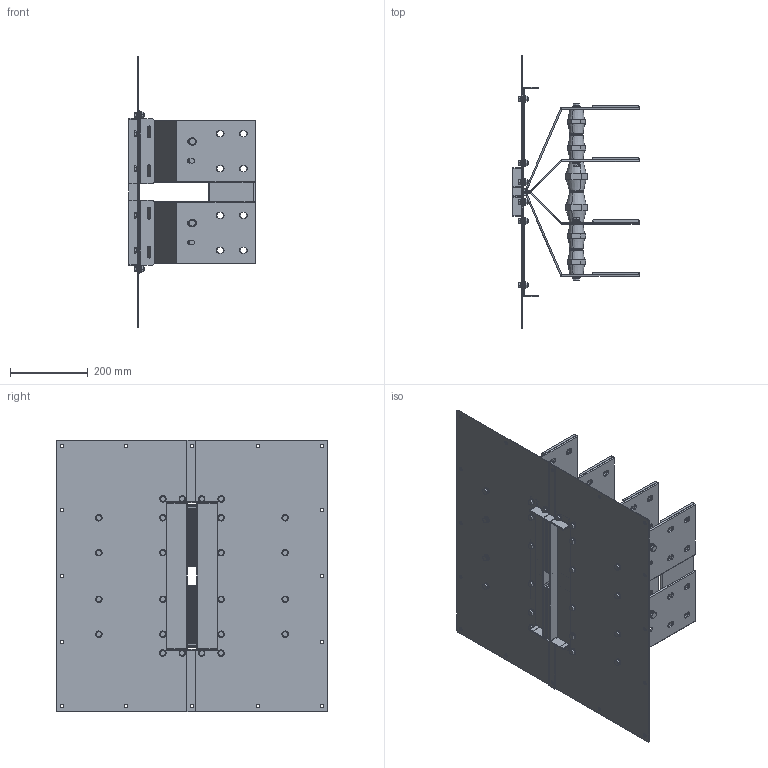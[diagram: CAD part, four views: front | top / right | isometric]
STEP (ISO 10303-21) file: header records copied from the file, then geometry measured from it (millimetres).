
FILE_DESCRIPTION(('CATIA V5 STEP','CAx-IF Rec.Pracs.--- Model Styling and Organization---1.5--- 2016-08-15','CAx-IF Rec.Pracs.---Supplemental Geometry---1.0---2011-11-01','CAx-IF Rec.Pracs.--- Composite Materials ---1.1---2010-07-15'),'2;1');
FILE_NAME('K:\COSCN 2011\32372311_RiduzioneSezioniBarre\03_Studio\__Modelli semplificati\XCP_UB semplificati per studi\XCP-HP_UB_4C_Pe_CRT_Assieme\Cu\XCP-HP_UB_4C_Pe_D_Assieme - 3200A Cu_CRT\XCP-HP_UB_4C_Pe_D_Assieme - 3200A Cu_CRT.stp','2025-05-12T12:02:25+00:00',('Utente Bticino'),('Bticino S.p.A.'),'CATIA Version 5-6 Release 2020 SP5','CATIA V5 STEP AP214 v2','none');
FILE_SCHEMA(('AUTOMOTIVE_DESIGN { 1 0 10303 214 1 1 1 1 }'));
Length unit declared in the file: millimetre
Products named in the file (30): XCP-HP_UB_4C_Pe_D_Assieme - 3200A Cu_CRT; XCP-HP_UB_4C_Pe_D_PaccoBarre_3200A Cu_CRT; XCP-HP_UB_4C_Pe_D_Lamiere_3200A Cu_CRT; XCP-HP_UB_4C_Pe_D_PaccoBarre_3200A Cu_CRT_1; XCP-HP_UB_4C_Pe_D - 3200A Cu_Bandelle parallelo_CRT; 130006; 130184; 00750033 - RONDELLA PIANA 4.8 D.12 UNI 6592 ZB; Ass_M10x25.1; 00740025 M10x25 UNI5739; Rondella spac M10 UNI 1751; 00750005; 130006_1; 00750033 - RONDELLA PIANA 4.8 D.12 UNI 6592 ZB_1; 130184_1; 130006_2; 00750033 - RONDELLA PIANA 4.8 D.12 UNI 6592 ZB_2; 130006_3; 130006_4; 130184_2; 00750033 - RONDELLA PIANA 4.8 D.12 UNI 6592 ZB_3; 130006_5; 00750033 - RONDELLA PIANA 4.8 D.12 UNI 6592 ZB_4; 130184_3; 130006_6; 00750033 - RONDELLA PIANA 4.8 D.12 UNI 6592 ZB_5; 130006_7; Ass Vite+dado M8; Steel hex flanged SCREW M12x16; Steel hex flanged NUT M8
Assembly tree (63 placements, depth 3):
  XCP-HP_UB_4C_Pe_D_Assieme - 3200A Cu_CRT
    XCP-HP_UB_4C_Pe_D_PaccoBarre_3200A Cu_CRT
    XCP-HP_UB_4C_Pe_D_Lamiere_3200A Cu_CRT
    XCP-HP_UB_4C_Pe_D_PaccoBarre_3200A Cu_CRT_1
    XCP-HP_UB_4C_Pe_D - 3200A Cu_Bandelle parallelo_CRT
    130006
    130184
    00750033 - RONDELLA PIANA 4.8 D.12 UNI 6592 ZB
    Ass_M10x25.1  x12
      00740025 M10x25 UNI5739
      Rondella spac M10 UNI 1751
      00750005
    130006_1
    00750033 - RONDELLA PIANA 4.8 D.12 UNI 6592 ZB_1
    130184_1
    130006_2
    00750033 - RONDELLA PIANA 4.8 D.12 UNI 6592 ZB_2
    130006_3
    130006_4
    130184_2
    00750033 - RONDELLA PIANA 4.8 D.12 UNI 6592 ZB_3
    130006_5
    00750033 - RONDELLA PIANA 4.8 D.12 UNI 6592 ZB_4
    130184_3
    130006_6
    00750033 - RONDELLA PIANA 4.8 D.12 UNI 6592 ZB_5
    130006_7
    Ass Vite+dado M8  x24
      Steel hex flanged SCREW M12x16
      Steel hex flanged NUT M8
Bounding box: 325 x 700 x 700 mm (x, y, z)
Volume: 5754024.6 mm3; surface area: 3209797.1 mm2
Topology: 128 solids, 128 shells, 2880 faces, 6908 edges, 4344 vertices
Faces by surface type: plane 1288, cylinder 856, cone 336, bspline 288, torus 112
Entity records: 41539 total; most frequent: CARTESIAN_POINT 8434, ORIENTED_EDGE 7128, DIRECTION 5462, EDGE_CURVE 3564, AXIS2_PLACEMENT_3D 2354, VERTEX_POINT 2276, VECTOR 2104, LINE 2104
